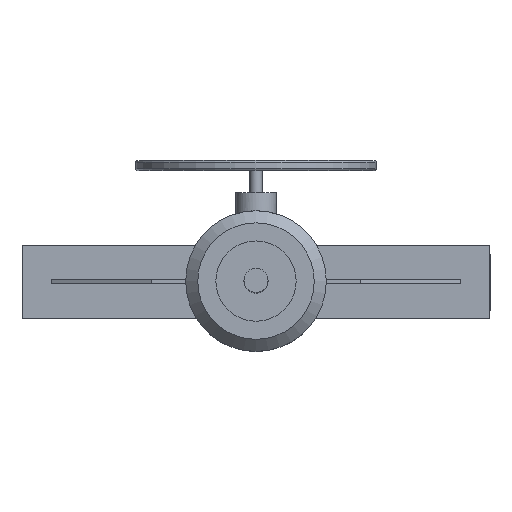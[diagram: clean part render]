
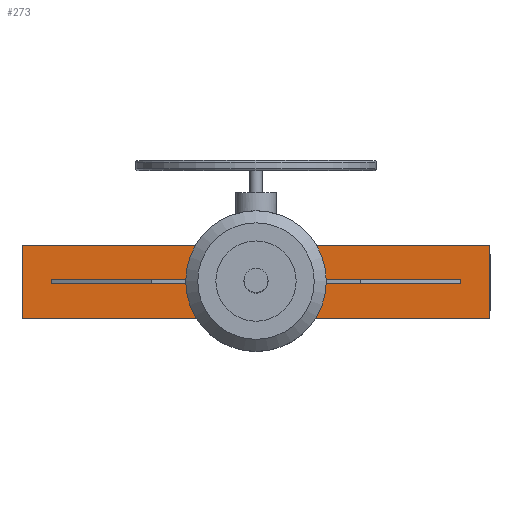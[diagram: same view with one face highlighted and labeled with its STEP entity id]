
A CAD part, top view. The second image highlights one B-rep face of the part: STEP entity #273.
In plain terms, the highlighted planar face has unit normal (0, 0, 1).
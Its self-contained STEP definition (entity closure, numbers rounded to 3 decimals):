
#273=ADVANCED_FACE('',(#2971,#2973),#2975,.T.);
#2971=FACE_BOUND('',#2972,.T.);
#2972=EDGE_LOOP('',(#5267,#5268,#5269,#5270,#5271,#5272,#5273,#5274));
#2973=FACE_BOUND('',#2974,.T.);
#2974=EDGE_LOOP('',(#5275,#5276,#5277,#5278));
#2975=PLANE('',#2976);
#2976=AXIS2_PLACEMENT_3D('',#2977,#2978,#2979);
#2977=CARTESIAN_POINT('',(0.,0.,980.));
#2978=DIRECTION('',(0.,0.,1.));
#2979=DIRECTION('',(1.,0.,0.));
#5267=ORIENTED_EDGE('',*,*,#6559,.F.);
#5268=ORIENTED_EDGE('',*,*,#6557,.T.);
#5269=ORIENTED_EDGE('',*,*,#6570,.T.);
#5270=ORIENTED_EDGE('',*,*,#6563,.T.);
#5271=ORIENTED_EDGE('',*,*,#6562,.F.);
#5272=ORIENTED_EDGE('',*,*,#6567,.T.);
#5273=ORIENTED_EDGE('',*,*,#6571,.T.);
#5274=ORIENTED_EDGE('',*,*,#6553,.T.);
#5275=ORIENTED_EDGE('',*,*,#6572,.F.);
#5276=ORIENTED_EDGE('',*,*,#6573,.F.);
#5277=ORIENTED_EDGE('',*,*,#6574,.F.);
#5278=ORIENTED_EDGE('',*,*,#6575,.F.);
#6553=EDGE_CURVE('',#7262,#7245,#7263,.T.);
#6557=EDGE_CURVE('',#7225,#7268,#7270,.T.);
#6559=EDGE_CURVE('',#7225,#7245,#7272,.T.);
#6562=EDGE_CURVE('',#7239,#7231,#7276,.T.);
#6563=EDGE_CURVE('',#7277,#7231,#7278,.T.);
#6567=EDGE_CURVE('',#7239,#7283,#7285,.T.);
#6570=EDGE_CURVE('',#7268,#7277,#7290,.T.);
#6571=EDGE_CURVE('',#7283,#7262,#7291,.T.);
#6572=EDGE_CURVE('',#7292,#7293,#7294,.T.);
#6573=EDGE_CURVE('',#7295,#7292,#7296,.F.);
#6574=EDGE_CURVE('',#7297,#7295,#7298,.T.);
#6575=EDGE_CURVE('',#7293,#7297,#7299,.T.);
#7225=VERTEX_POINT('',#8434);
#7231=VERTEX_POINT('',#8446);
#7239=VERTEX_POINT('',#8464);
#7245=VERTEX_POINT('',#8476);
#7262=VERTEX_POINT('',#8524);
#7263=LINE('',#8525,#8526);
#7268=VERTEX_POINT('',#8536);
#7270=LINE('',#8540,#8541);
#7272=LINE('',#8546,#8547);
#7276=LINE('',#8557,#8558);
#7277=VERTEX_POINT('',#8560);
#7278=LINE('',#8561,#8562);
#7283=VERTEX_POINT('',#8572);
#7285=LINE('',#8576,#8577);
#7290=LINE('',#8589,#8590);
#7291=LINE('',#8592,#8593);
#7292=VERTEX_POINT('',#8595);
#7293=VERTEX_POINT('',#8596);
#7294=LINE('',#8597,#8598);
#7295=VERTEX_POINT('',#8600);
#7296=LINE('',#8601,#8602);
#7297=VERTEX_POINT('',#8604);
#7298=LINE('',#8605,#8606);
#7299=LINE('',#8608,#8609);
#8434=CARTESIAN_POINT('',(140.,-90.,980.));
#8446=CARTESIAN_POINT('',(140.,90.,980.));
#8464=CARTESIAN_POINT('',(-140.,90.,980.));
#8476=CARTESIAN_POINT('',(-140.,-90.,980.));
#8524=CARTESIAN_POINT('',(-580.,-90.,980.));
#8525=CARTESIAN_POINT('',(-580.,-90.,980.));
#8526=VECTOR('',#8527,1.);
#8527=DIRECTION('',(1.,0.,0.));
#8536=CARTESIAN_POINT('',(580.,-90.,980.));
#8540=CARTESIAN_POINT('',(140.,-90.,980.));
#8541=VECTOR('',#8542,1.);
#8542=DIRECTION('',(1.,0.,0.));
#8546=CARTESIAN_POINT('',(140.,-90.,980.));
#8547=VECTOR('',#8548,1.);
#8548=DIRECTION('',(-1.,0.,0.));
#8557=CARTESIAN_POINT('',(-140.,90.,980.));
#8558=VECTOR('',#8559,1.);
#8559=DIRECTION('',(1.,0.,0.));
#8560=CARTESIAN_POINT('',(580.,90.,980.));
#8561=CARTESIAN_POINT('',(580.,90.,980.));
#8562=VECTOR('',#8563,1.);
#8563=DIRECTION('',(-1.,0.,0.));
#8572=CARTESIAN_POINT('',(-580.,90.,980.));
#8576=CARTESIAN_POINT('',(-140.,90.,980.));
#8577=VECTOR('',#8578,1.);
#8578=DIRECTION('',(-1.,0.,0.));
#8589=CARTESIAN_POINT('',(580.,-90.,980.));
#8590=VECTOR('',#8591,1.);
#8591=DIRECTION('',(0.,1.,0.));
#8592=CARTESIAN_POINT('',(-580.,90.,980.));
#8593=VECTOR('',#8594,1.);
#8594=DIRECTION('',(0.,-1.,0.));
#8595=CARTESIAN_POINT('',(-510.,5.,980.));
#8596=CARTESIAN_POINT('',(-510.,-5.,980.));
#8597=CARTESIAN_POINT('',(-510.,5.,980.));
#8598=VECTOR('',#8599,1.);
#8599=DIRECTION('',(0.,-1.,0.));
#8600=CARTESIAN_POINT('',(510.,5.,980.));
#8601=CARTESIAN_POINT('',(-510.,5.,980.));
#8602=VECTOR('',#8603,1.);
#8603=DIRECTION('',(1.,0.,0.));
#8604=CARTESIAN_POINT('',(510.,-5.,980.));
#8605=CARTESIAN_POINT('',(510.,-5.,980.));
#8606=VECTOR('',#8607,1.);
#8607=DIRECTION('',(0.,1.,0.));
#8608=CARTESIAN_POINT('',(-510.,-5.,980.));
#8609=VECTOR('',#8610,1.);
#8610=DIRECTION('',(1.,0.,0.));
